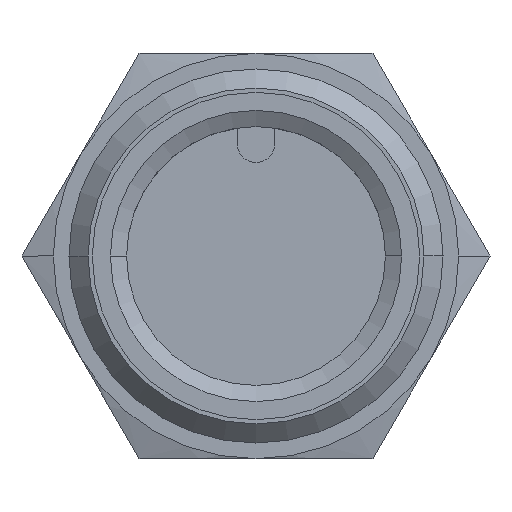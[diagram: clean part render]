
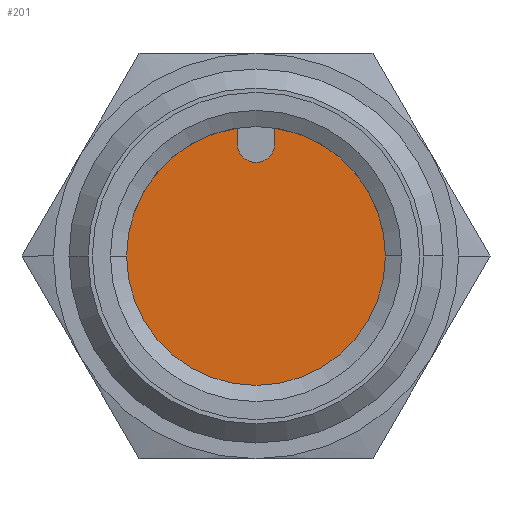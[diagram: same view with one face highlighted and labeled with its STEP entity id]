
A CAD part, left-side view. The second image highlights one B-rep face of the part: STEP entity #201.
In plain terms, the highlighted planar face has unit normal (-1, 0, 0).
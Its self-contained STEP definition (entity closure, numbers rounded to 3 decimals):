
#201 = ADVANCED_FACE( '', ( #342 ), #343, .T. );
#342 = FACE_OUTER_BOUND( '', #568, .T. );
#343 = PLANE( '', #569 );
#568 = EDGE_LOOP( '', ( #956, #957, #958, #959, #960, #961 ) );
#569 = AXIS2_PLACEMENT_3D( '', #962, #963, #964 );
#956 = ORIENTED_EDGE( '', *, *, #1617, .T. );
#957 = ORIENTED_EDGE( '', *, *, #1605, .T. );
#958 = ORIENTED_EDGE( '', *, *, #1620, .T. );
#959 = ORIENTED_EDGE( '', *, *, #1609, .T. );
#960 = ORIENTED_EDGE( '', *, *, #1615, .T. );
#961 = ORIENTED_EDGE( '', *, *, #1611, .T. );
#962 = CARTESIAN_POINT( '', ( 8.8, 2.075, 0. ) );
#963 = DIRECTION( '', ( -1., 0., 0. ) );
#964 = DIRECTION( '', ( 0., 1., 0. ) );
#1605 = EDGE_CURVE( '', #1902, #1900, #1903, .T. );
#1609 = EDGE_CURVE( '', #1910, #1908, #1911, .T. );
#1611 = EDGE_CURVE( '', #1913, #1914, #1915, .T. );
#1615 = EDGE_CURVE( '', #1908, #1913, #1921, .T. );
#1617 = EDGE_CURVE( '', #1914, #1902, #1923, .T. );
#1620 = EDGE_CURVE( '', #1900, #1910, #1926, .T. );
#1900 = VERTEX_POINT( '', #2539 );
#1902 = VERTEX_POINT( '', #2542 );
#1903 = CIRCLE( '', #2543, 4.15 );
#1908 = VERTEX_POINT( '', #2549 );
#1910 = VERTEX_POINT( '', #2552 );
#1911 = CIRCLE( '', #2553, 4.15 );
#1913 = VERTEX_POINT( '', #2556 );
#1914 = VERTEX_POINT( '', #2557 );
#1915 = CIRCLE( '', #2558, 0.6 );
#1921 = LINE( '', #2566, #2567 );
#1923 = LINE( '', #2570, #2571 );
#1926 = CIRCLE( '', #2575, 4.15 );
#2539 = CARTESIAN_POINT( '', ( 8.8, 4.15, 0. ) );
#2542 = CARTESIAN_POINT( '', ( 8.8, 0.6, 4.106 ) );
#2543 = AXIS2_PLACEMENT_3D( '', #3405, #3406, #3407 );
#2549 = CARTESIAN_POINT( '', ( 8.8, -0.6, 4.106 ) );
#2552 = CARTESIAN_POINT( '', ( 8.8, -4.15, 0. ) );
#2553 = AXIS2_PLACEMENT_3D( '', #3413, #3414, #3415 );
#2556 = CARTESIAN_POINT( '', ( 8.8, -0.6, 3.6 ) );
#2557 = CARTESIAN_POINT( '', ( 8.8, 0.6, 3.6 ) );
#2558 = AXIS2_PLACEMENT_3D( '', #3417, #3418, #3419 );
#2566 = CARTESIAN_POINT( '', ( 8.8, -0.6, 1.8 ) );
#2567 = VECTOR( '', #3425, 1. );
#2570 = CARTESIAN_POINT( '', ( 8.8, 0.6, 2.3 ) );
#2571 = VECTOR( '', #3427, 1. );
#2575 = AXIS2_PLACEMENT_3D( '', #3432, #3433, #3434 );
#3405 = CARTESIAN_POINT( '', ( 8.8, 0., 0. ) );
#3406 = DIRECTION( '', ( -1., 0., 0. ) );
#3407 = DIRECTION( '', ( 0., 1., 0. ) );
#3413 = CARTESIAN_POINT( '', ( 8.8, 0., 0. ) );
#3414 = DIRECTION( '', ( -1., 0., 0. ) );
#3415 = DIRECTION( '', ( 0., 1., 0. ) );
#3417 = CARTESIAN_POINT( '', ( 8.8, 0., 3.6 ) );
#3418 = DIRECTION( '', ( 1., 0., 0. ) );
#3419 = DIRECTION( '', ( 0., -1., 0. ) );
#3425 = DIRECTION( '', ( 0., 0., -1. ) );
#3427 = DIRECTION( '', ( 0., 0., 1. ) );
#3432 = CARTESIAN_POINT( '', ( 8.8, 0., 0. ) );
#3433 = DIRECTION( '', ( -1., 0., 0. ) );
#3434 = DIRECTION( '', ( 0., 1., 0. ) );
